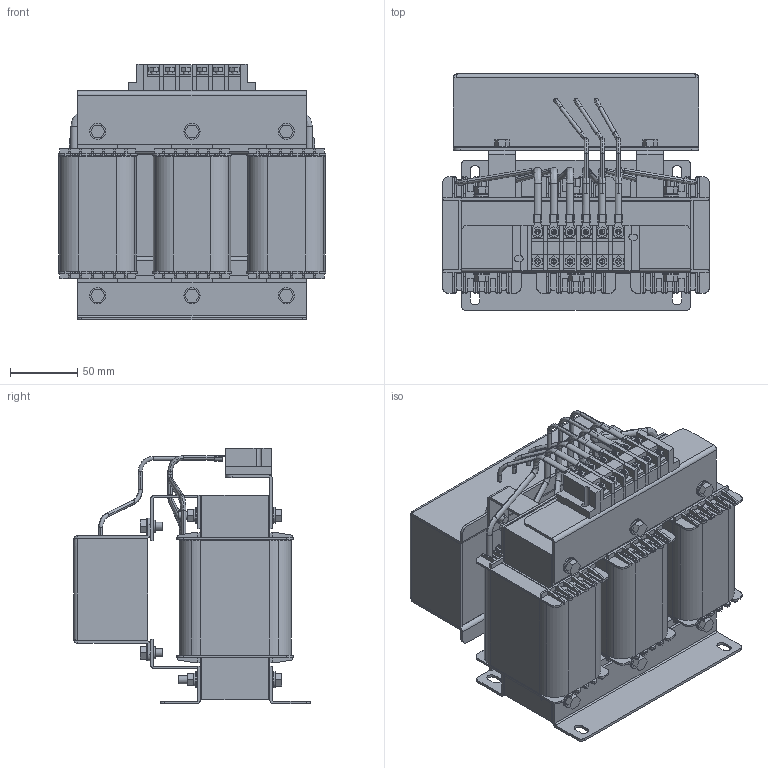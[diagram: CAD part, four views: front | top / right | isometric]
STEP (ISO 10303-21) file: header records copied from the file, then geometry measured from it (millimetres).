
FILE_DESCRIPTION (( 'STEP AP203' ), '1' );
FILE_NAME ('蔓躅漤铋 耔眢耥 翳朦蝠 _ ISINOF-4.0_8-4.STEP', '2026-07-16T09:30:06', ( '' ), ( '' ), 'SwSTEP 2.0', 'SolidWorks 2021', '' );
FILE_SCHEMA (( 'CONFIG_CONTROL_DESIGN' ));
Length unit declared in the file: inch
Products named in the file (173): 3.7KW滤波电抗器380V50Hz_86; 3.7KW滤波电抗器380V50Hz_126; 3.7KW滤波电抗器380V50Hz_164; 3.7KW滤波电抗器380V50Hz_76; 3.7KW滤波电抗器380V50Hz_4; 3.7KW滤波电抗器380V50Hz_7; 3.7KW滤波电抗器380V50Hz_14; 3.7KW滤波电抗器380V50Hz_158; 3.7KW滤波电抗器380V50Hz_112; 3.7KW滤波电抗器380V50Hz_145; 3.7KW滤波电抗器380V50Hz_21; 3.7KW滤波电抗器380V50Hz_162; 3.7KW滤波电抗器380V50Hz_8; 3.7KW滤波电抗器380V50Hz_135; 3.7KW滤波电抗器380V50Hz_50; 3.7KW滤波电抗器380V50Hz_35; 3.7KW滤波电抗器380V50Hz_89; 3.7KW滤波电抗器380V50Hz_46; 3.7KW滤波电抗器380V50Hz_74; 3.7KW滤波电抗器380V50Hz_150; 3.7KW滤波电抗器380V50Hz_28; 3.7KW滤波电抗器380V50Hz_127; 3.7KW滤波电抗器380V50Hz_15; 3.7KW滤波电抗器380V50Hz_142; 3.7KW滤波电抗器380V50Hz_17; 3.7KW滤波电抗器380V50Hz_32; 3.7KW滤波电抗器380V50Hz_56; 3.7KW滤波电抗器380V50Hz_151; 3.7KW滤波电抗器380V50Hz_113; 3.7KW滤波电抗器380V50Hz_101; 3.7KW滤波电抗器380V50Hz_71; 3.7KW滤波电抗器380V50Hz_119; 3.7KW滤波电抗器380V50Hz_49; 3.7KW滤波电抗器380V50Hz_44; 3.7KW滤波电抗器380V50Hz_140; 3.7KW滤波电抗器380V50Hz_1; 3.7KW滤波电抗器380V50Hz_169; 3.7KW滤波电抗器380V50Hz_43; 3.7KW滤波电抗器380V50Hz_37; 3.7KW滤波电抗器380V50Hz_70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
Assembly tree (172 placements, depth 2):
  蔓躅漤铋 耔眢耥 翳朦蝠 _ ISINOF-4.0_8-4
    3.7KW滤波电抗器380V50Hz_113
    3.7KW滤波电抗器380V50Hz_105
    3.7KW滤波电抗器380V50Hz_102
    3.7KW滤波电抗器380V50Hz_66
    3.7KW滤波电抗器380V50Hz_100
    3.7KW滤波电抗器380V50Hz_104
    3.7KW滤波电抗器380V50Hz_64
    3.7KW滤波电抗器380V50Hz_140
    3.7KW滤波电抗器380V50Hz_61
    3.7KW滤波电抗器380V50Hz_95
    3.7KW滤波电抗器380V50Hz_119
    3.7KW滤波电抗器380V50Hz_47
    3.7KW滤波电抗器380V50Hz_114
    3.7KW滤波电抗器380V50Hz_69
    3.7KW滤波电抗器380V50Hz_93
    3.7KW滤波电抗器380V50Hz_156
    3.7KW滤波电抗器380V50Hz_157
    3.7KW滤波电抗器380V50Hz_63
    3.7KW滤波电抗器380V50Hz_168
    3.7KW滤波电抗器380V50Hz_56
    3.7KW滤波电抗器380V50Hz_1
    3.7KW滤波电抗器380V50Hz_22
    3.7KW滤波电抗器380V50Hz_55
    3.7KW滤波电抗器380V50Hz_85
    3.7KW滤波电抗器380V50Hz_169
    3.7KW滤波电抗器380V50Hz_40
    3.7KW滤波电抗器380V50Hz_26
    3.7KW滤波电抗器380V50Hz_24
    3.7KW滤波电抗器380V50Hz_98
    3.7KW滤波电抗器380V50Hz_28
    3.7KW滤波电抗器380V50Hz_146
    3.7KW滤波电抗器380V50Hz_151
    3.7KW滤波电抗器380V50Hz_68
    3.7KW滤波电抗器380V50Hz_91
    3.7KW滤波电抗器380V50Hz_125
    3.7KW滤波电抗器380V50Hz_78
    3.7KW滤波电抗器380V50Hz_62
    3.7KW滤波电抗器380V50Hz_79
    3.7KW滤波电抗器380V50Hz_165
    3.7KW滤波电抗器380V50Hz_70
    3.7KW滤波电抗器380V50Hz_38
    3.7KW滤波电抗器380V50Hz_37
    3.7KW滤波电抗器380V50Hz_90
    3.7KW滤波电抗器380V50Hz_44
    3.7KW滤波电抗器380V50Hz_155
    3.7KW滤波电抗器380V50Hz_139
    3.7KW滤波电抗器380V50Hz_142
    3.7KW滤波电抗器380V50Hz_160
    3.7KW滤波电抗器380V50Hz_134
    3.7KW滤波电抗器380V50Hz_112
    3.7KW滤波电抗器380V50Hz_103
    3.7KW滤波电抗器380V50Hz_67
    3.7KW滤波电抗器380V50Hz_54
    3.7KW滤波电抗器380V50Hz_96
    3.7KW滤波电抗器380V50Hz_120
    3.7KW滤波电抗器380V50Hz_45
    3.7KW滤波电抗器380V50Hz_36
    3.7KW滤波电抗器380V50Hz_164
    3.7KW滤波电抗器380V50Hz_81
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Bounding box: 198.53 x 175.5 x 190 mm (x, y, z)
Volume: 1962726.7 mm3; surface area: 704645.9 mm2
Topology: 172 solids, 172 shells, 2430 faces, 6098 edges, 4022 vertices
Faces by surface type: plane 1716, cylinder 580, bspline 92, cone 24, torus 18
Entity records: 96455 total; most frequent: CARTESIAN_POINT 19519, ORIENTED_EDGE 12196, DIRECTION 11515, EDGE_CURVE 6098, LINE 4593, VECTOR 4593, VERTEX_POINT 4022, AXIS2_PLACEMENT_3D 3461
